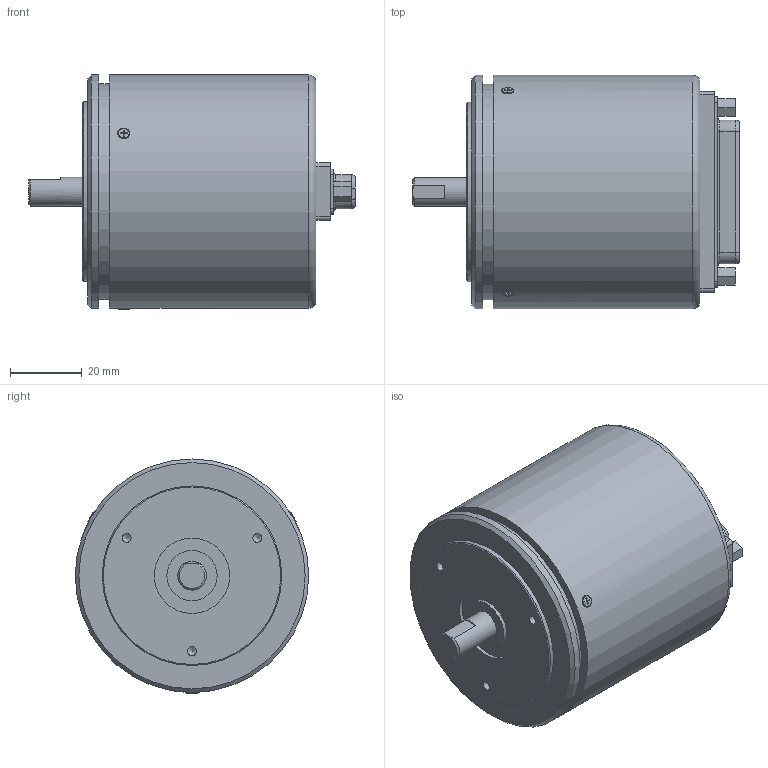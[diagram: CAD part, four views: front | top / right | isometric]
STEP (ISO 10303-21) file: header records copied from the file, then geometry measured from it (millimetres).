
FILE_DESCRIPTION(('STEP AP242'),'1');
FILE_NAME('L4E01A MXS-42.stp','2025-08-25T01:41:35',(' '),(' '),'Spatial InterOp 3D',' ',' ');
FILE_SCHEMA(('AP242_MANAGED_MODEL_BASED_3D_ENGINEERING_MIM_LF {1 0 10303 442 1 1 4}'));
Length unit declared in the file: millimetre
Products named in the file (1): L4E01C MXSW-42
Bounding box: 91 x 65 x 65.15 mm (x, y, z)
Volume: 216582.4 mm3; surface area: 25101.8 mm2
Topology: 1 solids, 6 shells, 282 faces, 680 edges, 455 vertices
Faces by surface type: plane 130, cylinder 110, cone 16, torus 13, bspline 12, sphere 1
Full cylindrical faces by diameter (mm): 1.016 x25, 1.6 x2, 2 x3, 2.15 x4, 2.5 x6, 2.6 x4, 3 x8, 3.05 x1, 3.15 x1, 8 x1, 14 x1, 21 x1, 50 x1, 60 x1, 65 x2
Entity records: 11197 total; most frequent: CARTESIAN_POINT 2801, DIRECTION 1256, ORIENTED_EDGE 1104, EDGE_CURVE 552, AXIS2_PLACEMENT_3D 497, VERTEX_POINT 413, EDGE_LOOP 412, FACE_OUTER_BOUND 346
